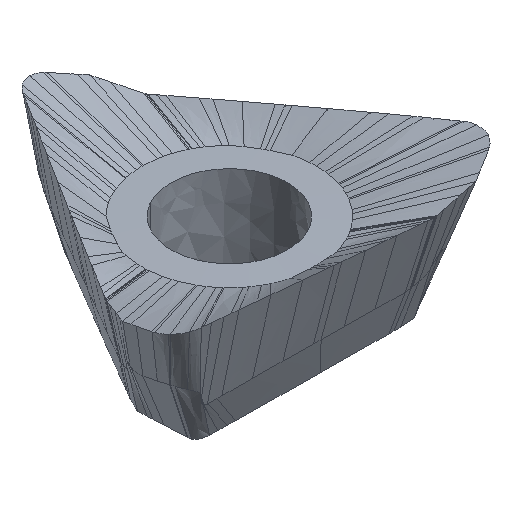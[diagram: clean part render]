
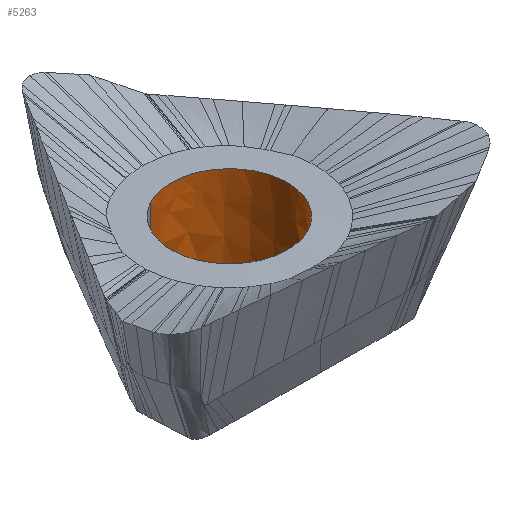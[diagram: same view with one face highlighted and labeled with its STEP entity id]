
A CAD part, isometric view. The second image highlights one B-rep face of the part: STEP entity #5263.
In plain terms, the highlighted face is a extrusion surface.
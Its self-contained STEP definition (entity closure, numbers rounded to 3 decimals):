
#1298=CARTESIAN_POINT('Control Point',(0.915,-1.675,0.)) ;
#1299=CARTESIAN_POINT('Control Point',(1.128,-1.559,0.)) ;
#1300=CARTESIAN_POINT('Control Point',(1.322,-1.409,0.)) ;
#1301=CARTESIAN_POINT('Control Point',(1.49,-1.229,0.)) ;
#1302=CARTESIAN_POINT('Control Point',(1.765,-0.822,0.)) ;
#1303=CARTESIAN_POINT('Control Point',(1.9,-0.349,0.)) ;
#1304=CARTESIAN_POINT('Control Point',(1.929,-0.104,0.)) ;
#1305=CARTESIAN_POINT('Control Point',(1.908,0.388,0.)) ;
#1306=CARTESIAN_POINT('Control Point',(1.735,0.85,0.)) ;
#1307=CARTESIAN_POINT('Control Point',(1.613,1.065,0.)) ;
#1308=CARTESIAN_POINT('Control Point',(1.303,1.448,0.)) ;
#1309=CARTESIAN_POINT('Control Point',(0.889,1.715,0.)) ;
#1310=CARTESIAN_POINT('Control Point',(0.663,1.815,0.)) ;
#1311=CARTESIAN_POINT('Control Point',(0.202,1.935,0.)) ;
#1312=CARTESIAN_POINT('Control Point',(-0.274,1.91,0.)) ;
#1313=CARTESIAN_POINT('Control Point',(-0.5,1.863,0.)) ;
#1314=CARTESIAN_POINT('Control Point',(-0.716,1.784,0.)) ;
#1315=CARTESIAN_POINT('Control Point',(-0.915,1.675,0.)) ;
#1316=CARTESIAN_POINT('Vertex',(0.915,-1.675,0.)) ;
#1318=CARTESIAN_POINT('Vertex',(-0.915,1.675,0.)) ;
#5195=CARTESIAN_POINT('Line Origine',(-0.915,1.675,1.)) ;
#5199=CARTESIAN_POINT('Vertex',(-0.915,1.675,2.901)) ;
#5215=CARTESIAN_POINT('Vertex',(0.915,-1.675,2.9)) ;
#5218=CARTESIAN_POINT('Line Origine',(0.915,-1.675,1.)) ;
#5231=CARTESIAN_POINT('Control Point',(0.915,-1.675,0.)) ;
#5232=CARTESIAN_POINT('Control Point',(1.344,-1.441,0.)) ;
#5233=CARTESIAN_POINT('Control Point',(1.697,-1.07,0.)) ;
#5234=CARTESIAN_POINT('Control Point',(1.917,-0.593,0.)) ;
#5235=CARTESIAN_POINT('Control Point',(1.994,0.173,0.)) ;
#5236=CARTESIAN_POINT('Control Point',(1.727,0.867,0.)) ;
#5237=CARTESIAN_POINT('Control Point',(1.601,1.082,0.)) ;
#5238=CARTESIAN_POINT('Control Point',(1.142,1.636,0.)) ;
#5239=CARTESIAN_POINT('Control Point',(0.465,1.942,0.)) ;
#5240=CARTESIAN_POINT('Control Point',(-0.029,1.997,0.)) ;
#5241=CARTESIAN_POINT('Control Point',(-0.506,1.898,0.)) ;
#5242=CARTESIAN_POINT('Control Point',(-0.915,1.675,0.)) ;
#5247=CARTESIAN_POINT('Control Point',(-0.915,1.675,2.901)) ;
#5248=CARTESIAN_POINT('Control Point',(-0.388,1.963,2.901)) ;
#5249=CARTESIAN_POINT('Control Point',(0.253,2.044,2.901)) ;
#5250=CARTESIAN_POINT('Control Point',(0.897,1.854,2.9)) ;
#5251=CARTESIAN_POINT('Control Point',(1.884,1.024,2.905)) ;
#5252=CARTESIAN_POINT('Control Point',(2.042,-0.254,2.899)) ;
#5253=CARTESIAN_POINT('Control Point',(1.853,-0.895,2.9)) ;
#5254=CARTESIAN_POINT('Control Point',(1.44,-1.388,2.9)) ;
#5255=CARTESIAN_POINT('Control Point',(0.915,-1.675,2.9)) ;
#5196=DIRECTION('Vector Direction',(0.,0.,-1.)) ;
#5219=DIRECTION('Vector Direction',(0.,0.,-1.)) ;
#5243=DIRECTION('Vector Direction',(0.,0.,-1.)) ;
#5197=VECTOR('Line Direction',#5196,1.) ;
#5220=VECTOR('Line Direction',#5219,1.) ;
#5244=VECTOR('Extrusion Surface Vector',#5243,1.) ;
#5258=ORIENTED_EDGE('',*,*,#5222,.F.) ;
#5259=ORIENTED_EDGE('',*,*,#5256,.F.) ;
#5260=ORIENTED_EDGE('',*,*,#5201,.T.) ;
#5261=ORIENTED_EDGE('',*,*,#1320,.F.) ;
#5263=ADVANCED_FACE('CUT',(#5262),#5245,.T.) ;
#1297=B_SPLINE_CURVE_WITH_KNOTS('',5,(#1298,#1299,#1300,#1301,#1302,#1303,#1304,#1305,#1306,#1307,#1308,#1309,#1310,#1311,#1312,#1313,#1314,#1315),.UNSPECIFIED.,.F.,.U.,(6,3,3,3,3,6),(0.,2.098,4.204,6.311,8.417,10.386),.UNSPECIFIED.) ;
#5230=B_SPLINE_CURVE_WITH_KNOTS('',5,(#5231,#5232,#5233,#5234,#5235,#5236,#5237,#5238,#5239,#5240,#5241,#5242),.UNSPECIFIED.,.F.,.U.,(6,3,3,6),(0.,3.453,5.186,8.48),.UNSPECIFIED.) ;
#5246=B_SPLINE_CURVE_WITH_KNOTS('',5,(#5247,#5248,#5249,#5250,#5251,#5252,#5253,#5254,#5255),.UNSPECIFIED.,.F.,.U.,(6,3,6),(0.,5.203,10.386),.UNSPECIFIED.) ;
#1320=EDGE_CURVE('',#1317,#1319,#1297,.T.) ;
#5201=EDGE_CURVE('',#5200,#1319,#5198,.T.) ;
#5222=EDGE_CURVE('',#5216,#1317,#5221,.T.) ;
#5256=EDGE_CURVE('',#5200,#5216,#5246,.T.) ;
#5257=EDGE_LOOP('',(#5258,#5259,#5260,#5261)) ;
#5262=FACE_OUTER_BOUND('',#5257,.T.) ;
#5198=LINE('Line',#5195,#5197) ;
#5221=LINE('Line',#5218,#5220) ;
#5245=SURFACE_OF_LINEAR_EXTRUSION('generated tabulated cylinder',#5230,#5244) ;
#1317=VERTEX_POINT('',#1316) ;
#1319=VERTEX_POINT('',#1318) ;
#5200=VERTEX_POINT('',#5199) ;
#5216=VERTEX_POINT('',#5215) ;
